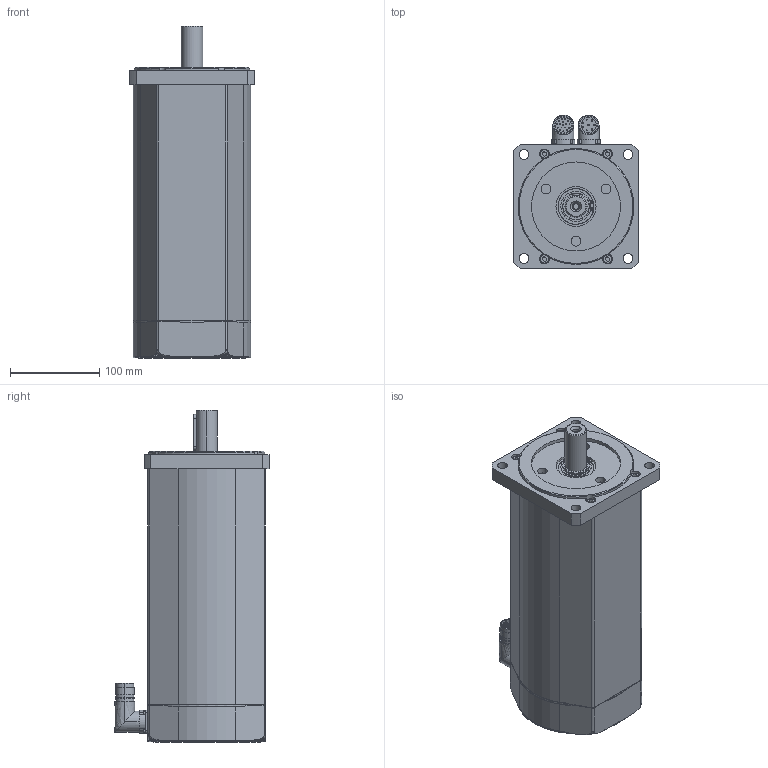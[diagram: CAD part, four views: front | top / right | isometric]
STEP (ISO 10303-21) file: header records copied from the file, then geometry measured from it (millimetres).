
FILE_DESCRIPTION (( 'STEP AP203' ), '1' );
FILE_NAME ('SSAX140XXL_SF.STEP', '2015-09-10T12:49:43', ( 'Tecnico motori' ), ( '' ), 'SwSTEP 2.0', 'SolidWorks 2010', '' );
FILE_SCHEMA (( 'CONFIG_CONTROL_DESIGN' ));
Length unit declared in the file: millimetre
Products named in the file (1): SSAX140XXL_SF
Bounding box: 140 x 173 x 372.85 mm (x, y, z)
Surface area: 218461.4 mm2 (no closed solid volume)
Topology: 0 solids, 31 shells, 442 faces, 1241 edges, 860 vertices
Faces by surface type: cylinder 205, plane 180, cone 27, torus 24, bspline 6
Entity records: 15439 total; most frequent: CARTESIAN_POINT 3618, DIRECTION 2647, ORIENTED_EDGE 2149, EDGE_CURVE 1241, AXIS2_PLACEMENT_3D 1039, VERTEX_POINT 860, CIRCLE 602, LINE 569
